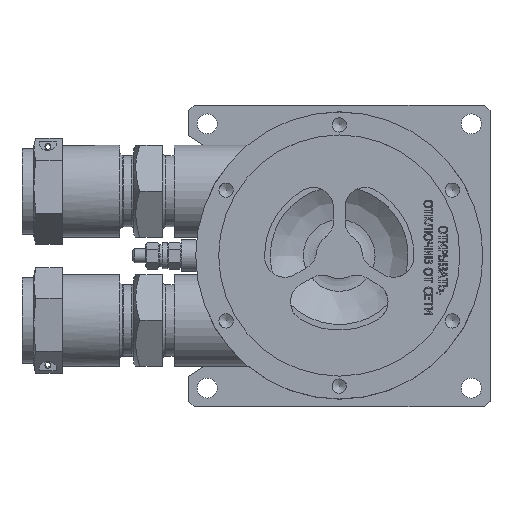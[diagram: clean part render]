
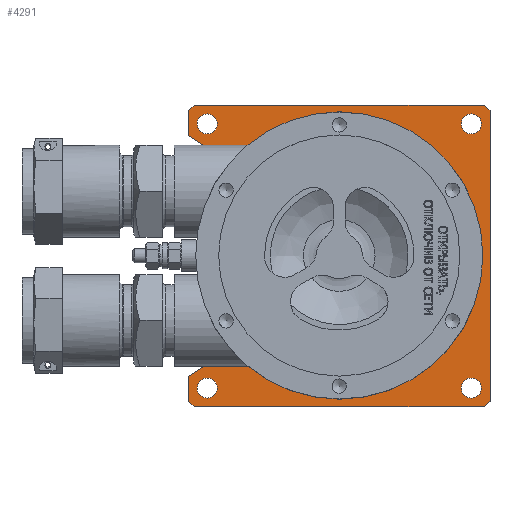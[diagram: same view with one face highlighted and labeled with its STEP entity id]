
A CAD part, top view. The second image highlights one B-rep face of the part: STEP entity #4291.
In plain terms, the highlighted planar face has unit normal (0, 0, 1).
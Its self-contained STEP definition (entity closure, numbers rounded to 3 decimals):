
#4291=ADVANCED_FACE('',(#10266,#10268,#10270,#10272,#10274,#10276),#10278,.F.);
#10266=FACE_BOUND('',#10267,.T.);
#10267=EDGE_LOOP('',(#14494,#14495,#14496,#14497,#14498,#14499,#14500,#14501,#14502,
#14503,#14504,#14505,#14506,#14507));
#10268=FACE_BOUND('',#10269,.T.);
#10269=EDGE_LOOP('',(#14508));
#10270=FACE_BOUND('',#10271,.T.);
#10271=EDGE_LOOP('',(#14509));
#10272=FACE_BOUND('',#10273,.T.);
#10273=EDGE_LOOP('',(#14510));
#10274=FACE_BOUND('',#10275,.T.);
#10275=EDGE_LOOP('',(#14511));
#10276=FACE_BOUND('',#10277,.T.);
#10277=EDGE_LOOP('',(#14512));
#10278=PLANE('',#10279);
#10279=AXIS2_PLACEMENT_3D('',#10280,#10281,#10282);
#10280=CARTESIAN_POINT('',(-0.053,0.,0.));
#10281=DIRECTION('',(0.,0.,-1.));
#10282=DIRECTION('',(-1.,0.,0.));
#14494=ORIENTED_EDGE('',*,*,#16521,.F.);
#14495=ORIENTED_EDGE('',*,*,#16522,.F.);
#14496=ORIENTED_EDGE('',*,*,#16523,.F.);
#14497=ORIENTED_EDGE('',*,*,#16524,.F.);
#14498=ORIENTED_EDGE('',*,*,#16525,.F.);
#14499=ORIENTED_EDGE('',*,*,#16526,.F.);
#14500=ORIENTED_EDGE('',*,*,#16527,.F.);
#14501=ORIENTED_EDGE('',*,*,#16528,.F.);
#14502=ORIENTED_EDGE('',*,*,#16529,.F.);
#14503=ORIENTED_EDGE('',*,*,#16530,.F.);
#14504=ORIENTED_EDGE('',*,*,#16531,.F.);
#14505=ORIENTED_EDGE('',*,*,#16532,.F.);
#14506=ORIENTED_EDGE('',*,*,#16533,.F.);
#14507=ORIENTED_EDGE('',*,*,#16534,.F.);
#14508=ORIENTED_EDGE('',*,*,#16519,.F.);
#14509=ORIENTED_EDGE('',*,*,#16535,.T.);
#14510=ORIENTED_EDGE('',*,*,#16536,.T.);
#14511=ORIENTED_EDGE('',*,*,#16537,.T.);
#14512=ORIENTED_EDGE('',*,*,#16538,.T.);
#16519=EDGE_CURVE('',#18935,#18935,#18936,.F.);
#16521=EDGE_CURVE('',#18939,#18940,#18941,.T.);
#16522=EDGE_CURVE('',#18942,#18939,#18943,.T.);
#16523=EDGE_CURVE('',#18944,#18942,#18945,.T.);
#16524=EDGE_CURVE('',#18946,#18944,#18947,.T.);
#16525=EDGE_CURVE('',#18948,#18946,#18949,.T.);
#16526=EDGE_CURVE('',#18950,#18948,#18951,.T.);
#16527=EDGE_CURVE('',#18952,#18950,#18953,.T.);
#16528=EDGE_CURVE('',#18954,#18952,#18955,.T.);
#16529=EDGE_CURVE('',#18956,#18954,#18957,.T.);
#16530=EDGE_CURVE('',#18958,#18956,#18959,.T.);
#16531=EDGE_CURVE('',#18960,#18958,#18961,.T.);
#16532=EDGE_CURVE('',#18962,#18960,#18963,.T.);
#16533=EDGE_CURVE('',#18964,#18962,#18965,.T.);
#16534=EDGE_CURVE('',#18940,#18964,#18966,.T.);
#16535=EDGE_CURVE('',#18967,#18967,#18968,.T.);
#16536=EDGE_CURVE('',#18969,#18969,#18970,.T.);
#16537=EDGE_CURVE('',#18971,#18971,#18972,.T.);
#16538=EDGE_CURVE('',#18973,#18973,#18974,.T.);
#18935=VERTEX_POINT('',#29374);
#18936=CIRCLE('',#29375,4.5);
#18939=VERTEX_POINT('',#29384);
#18940=VERTEX_POINT('',#29385);
#18941=LINE('',#29386,#29387);
#18942=VERTEX_POINT('',#29389);
#18943=LINE('',#29390,#29391);
#18944=VERTEX_POINT('',#29393);
#18945=LINE('',#29394,#29395);
#18946=VERTEX_POINT('',#29397);
#18947=LINE('',#29398,#29399);
#18948=VERTEX_POINT('',#29401);
#18949=LINE('',#29402,#29403);
#18950=VERTEX_POINT('',#29405);
#18951=LINE('',#29406,#29407);
#18952=VERTEX_POINT('',#29409);
#18953=CIRCLE('',#29410,5.);
#18954=VERTEX_POINT('',#29414);
#18955=CIRCLE('',#29415,46.);
#18956=VERTEX_POINT('',#29419);
#18957=CIRCLE('',#29420,5.);
#18958=VERTEX_POINT('',#29424);
#18959=LINE('',#29425,#29426);
#18960=VERTEX_POINT('',#29428);
#18961=LINE('',#29429,#29430);
#18962=VERTEX_POINT('',#29432);
#18963=LINE('',#29433,#29434);
#18964=VERTEX_POINT('',#29436);
#18965=LINE('',#29437,#29438);
#18966=LINE('',#29440,#29441);
#18967=VERTEX_POINT('',#29443);
#18968=CIRCLE('',#29444,3.5);
#18969=VERTEX_POINT('',#29448);
#18970=CIRCLE('',#29449,3.5);
#18971=VERTEX_POINT('',#29453);
#18972=CIRCLE('',#29454,3.5);
#18973=VERTEX_POINT('',#29458);
#18974=CIRCLE('',#29459,3.5);
#29374=CARTESIAN_POINT('',(40.5,0.,0.));
#29375=AXIS2_PLACEMENT_3D('',#29376,#29377,#29378);
#29376=CARTESIAN_POINT('',(36.,0.,0.));
#29377=DIRECTION('',(0.,0.,-1.));
#29378=DIRECTION('',(1.,0.,0.));
#29384=CARTESIAN_POINT('',(52.5,50.5,0.));
#29385=CARTESIAN_POINT('',(52.5,-50.5,0.));
#29386=CARTESIAN_POINT('',(52.5,50.5,0.));
#29387=VECTOR('',#29388,1.);
#29388=DIRECTION('',(0.,-1.,0.));
#29389=CARTESIAN_POINT('',(50.5,52.5,0.));
#29390=CARTESIAN_POINT('',(50.5,52.5,0.));
#29391=VECTOR('',#29392,1.);
#29392=DIRECTION('',(0.707,-0.707,0.));
#29393=CARTESIAN_POINT('',(-50.5,52.5,0.));
#29394=CARTESIAN_POINT('',(-50.5,52.5,0.));
#29395=VECTOR('',#29396,1.);
#29396=DIRECTION('',(1.,0.,0.));
#29397=CARTESIAN_POINT('',(-52.5,50.5,0.));
#29398=CARTESIAN_POINT('',(-52.5,50.5,0.));
#29399=VECTOR('',#29400,1.);
#29400=DIRECTION('',(0.707,0.707,0.));
#29401=CARTESIAN_POINT('',(-52.5,42.,0.));
#29402=CARTESIAN_POINT('',(-52.5,42.,0.));
#29403=VECTOR('',#29404,1.);
#29404=DIRECTION('',(0.,1.,0.));
#29405=CARTESIAN_POINT('',(-39.225,33.046,0.));
#29406=CARTESIAN_POINT('',(-39.225,33.046,0.));
#29407=VECTOR('',#29408,1.);
#29408=DIRECTION('',(-0.829,0.559,0.));
#29409=CARTESIAN_POINT('',(-37.901,26.067,0.));
#29410=AXIS2_PLACEMENT_3D('',#29411,#29412,#29413);
#29411=CARTESIAN_POINT('',(-42.021,28.901,0.));
#29412=DIRECTION('',(0.,0.,1.));
#29413=DIRECTION('',(0.824,-0.567,0.));
#29414=CARTESIAN_POINT('',(-37.901,-26.067,0.));
#29415=AXIS2_PLACEMENT_3D('',#29416,#29417,#29418);
#29416=CARTESIAN_POINT('',(0.,0.,0.));
#29417=DIRECTION('',(0.,0.,-1.));
#29418=DIRECTION('',(-0.824,-0.567,0.));
#29419=CARTESIAN_POINT('',(-39.225,-33.046,0.));
#29420=AXIS2_PLACEMENT_3D('',#29421,#29422,#29423);
#29421=CARTESIAN_POINT('',(-42.021,-28.901,0.));
#29422=DIRECTION('',(0.,0.,1.));
#29423=DIRECTION('',(0.559,-0.829,0.));
#29424=CARTESIAN_POINT('',(-52.5,-42.,0.));
#29425=CARTESIAN_POINT('',(-52.5,-42.,0.));
#29426=VECTOR('',#29427,1.);
#29427=DIRECTION('',(0.829,0.559,0.));
#29428=CARTESIAN_POINT('',(-52.5,-50.5,0.));
#29429=CARTESIAN_POINT('',(-52.5,-50.5,0.));
#29430=VECTOR('',#29431,1.);
#29431=DIRECTION('',(0.,1.,0.));
#29432=CARTESIAN_POINT('',(-50.5,-52.5,0.));
#29433=CARTESIAN_POINT('',(-50.5,-52.5,0.));
#29434=VECTOR('',#29435,1.);
#29435=DIRECTION('',(-0.707,0.707,0.));
#29436=CARTESIAN_POINT('',(50.5,-52.5,0.));
#29437=CARTESIAN_POINT('',(50.5,-52.5,0.));
#29438=VECTOR('',#29439,1.);
#29439=DIRECTION('',(-1.,0.,0.));
#29440=CARTESIAN_POINT('',(52.5,-50.5,0.));
#29441=VECTOR('',#29442,1.);
#29442=DIRECTION('',(-0.707,-0.707,0.));
#29443=CARTESIAN_POINT('',(42.5,46.,0.));
#29444=AXIS2_PLACEMENT_3D('',#29445,#29446,#29447);
#29445=CARTESIAN_POINT('',(46.,46.,0.));
#29446=DIRECTION('',(0.,0.,-1.));
#29447=DIRECTION('',(-1.,0.,0.));
#29448=CARTESIAN_POINT('',(42.5,-46.,0.));
#29449=AXIS2_PLACEMENT_3D('',#29450,#29451,#29452);
#29450=CARTESIAN_POINT('',(46.,-46.,0.));
#29451=DIRECTION('',(0.,0.,-1.));
#29452=DIRECTION('',(-1.,0.,0.));
#29453=CARTESIAN_POINT('',(-49.5,-46.,0.));
#29454=AXIS2_PLACEMENT_3D('',#29455,#29456,#29457);
#29455=CARTESIAN_POINT('',(-46.,-46.,0.));
#29456=DIRECTION('',(0.,0.,-1.));
#29457=DIRECTION('',(-1.,0.,0.));
#29458=CARTESIAN_POINT('',(-49.5,46.,0.));
#29459=AXIS2_PLACEMENT_3D('',#29460,#29461,#29462);
#29460=CARTESIAN_POINT('',(-46.,46.,0.));
#29461=DIRECTION('',(0.,0.,-1.));
#29462=DIRECTION('',(-1.,0.,0.));
